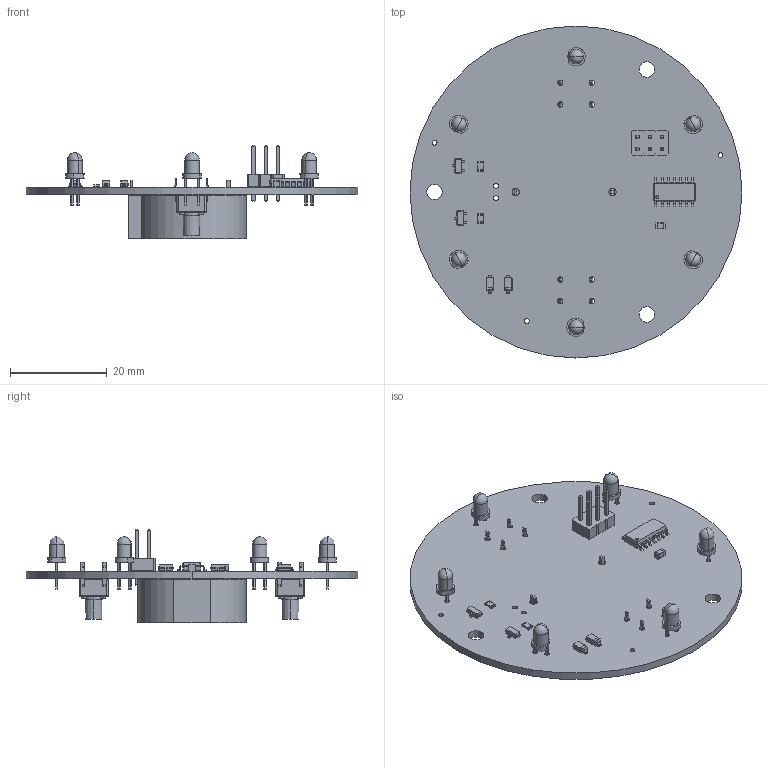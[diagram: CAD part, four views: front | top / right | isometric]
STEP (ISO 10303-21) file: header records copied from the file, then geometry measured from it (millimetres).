
FILE_DESCRIPTION (( 'STEP AP214' ), '1' );
FILE_NAME ('NightLight-SMT.STEP', '2020-09-29T20:47:47', ( '' ), ( '' ), 'SwSTEP 2.0', 'SolidWorks 2019', '' );
FILE_SCHEMA (( 'AUTOMOTIVE_DESIGN' ));
Length unit declared in the file: inch
Products named in the file (1): NightLight-SMT
Bounding box: 68.58 x 68.58 x 19.23 mm (x, y, z)
Volume: 8671.8 mm3; surface area: 11271.5 mm2
Topology: 19 solids, 19 shells, 1192 faces, 3007 edges, 1884 vertices
Faces by surface type: plane 703, cylinder 325, bspline 144, sphere 12, cone 4, torus 4
Entity records: 51365 total; most frequent: CARTESIAN_POINT 7786, ORIENTED_EDGE 5966, DIRECTION 5317, EDGE_CURVE 2983, LINE 1983, VECTOR 1983, VERTEX_POINT 1872, AXIS2_PLACEMENT_3D 1667
